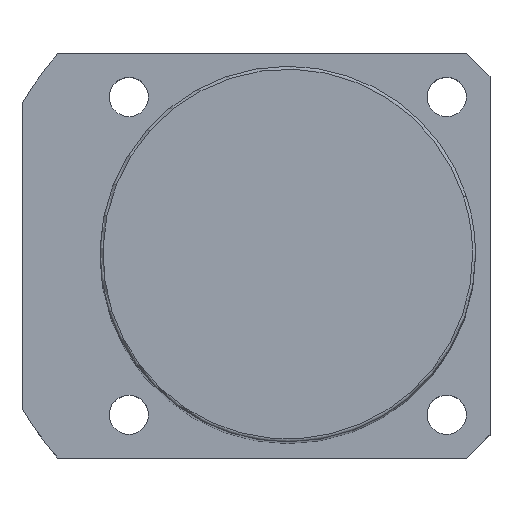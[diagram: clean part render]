
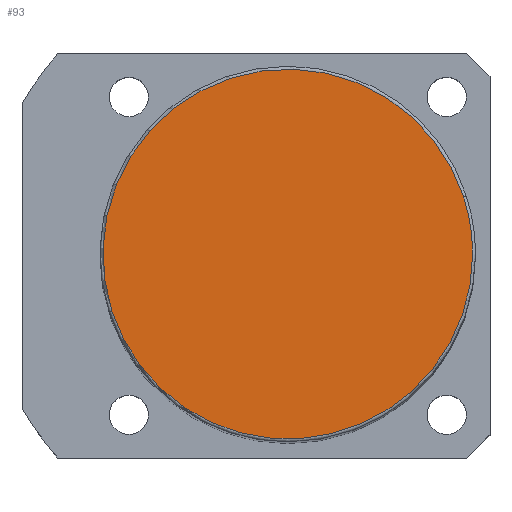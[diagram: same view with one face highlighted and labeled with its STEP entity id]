
A CAD part, top view. The second image highlights one B-rep face of the part: STEP entity #93.
In plain terms, the highlighted planar face has unit normal (0, 0, 1).
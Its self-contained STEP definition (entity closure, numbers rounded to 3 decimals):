
#16=CARTESIAN_POINT('',(30.434,9.889,191.0));
#17=VERTEX_POINT('',#16);
#45=CARTESIAN_POINT('',(-30.434,-9.889,191.0));
#46=VERTEX_POINT('',#45);
#54=CARTESIAN_POINT('',(0.0,0.0,191.0));
#55=DIRECTION('',(0.0,0.0,1.0));
#56=DIRECTION('',(1.0,0.0,0.0));
#57=AXIS2_PLACEMENT_3D('',#54,#55,#56);
#58=CIRCLE('',#57,32.0);
#59=EDGE_CURVE('no 890',#17,#46,#58,.T.);
#69=CARTESIAN_POINT('',(32.0,0.0,191.0));
#70=VERTEX_POINT('',#69);
#71=CARTESIAN_POINT('',(0.0,0.0,191.0));
#72=DIRECTION('',(0.0,0.0,1.0));
#73=DIRECTION('',(1.0,0.0,0.0));
#74=AXIS2_PLACEMENT_3D('',#71,#72,#73);
#75=CIRCLE('',#74,32.0);
#76=EDGE_CURVE('no 899',#70,#17,#75,.T.);
#77=ORIENTED_EDGE('',*,*,#76,.T.);
#78=ORIENTED_EDGE('',*,*,#59,.T.);
#79=CARTESIAN_POINT('',(0.0,0.0,191.0));
#80=DIRECTION('',(0.0,0.0,1.0));
#81=DIRECTION('',(1.0,0.0,0.0));
#82=AXIS2_PLACEMENT_3D('',#79,#80,#81);
#83=CIRCLE('',#82,32.0);
#84=EDGE_CURVE('no 905',#46,#70,#83,.T.);
#85=ORIENTED_EDGE('',*,*,#84,.T.);
#86=EDGE_LOOP('',(#77,#78,#85));
#87=FACE_OUTER_BOUND('',#86,.T.);
#88=CARTESIAN_POINT('',(0.0,0.0,191.0));
#89=DIRECTION('',(0.0,0.0,1.0));
#90=DIRECTION('',(1.0,0.0,0.0));
#91=AXIS2_PLACEMENT_3D('',#88,#89,#90);
#92=PLANE('',#91);
#93=ADVANCED_FACE('no 892',(#87),#92,.T.);
